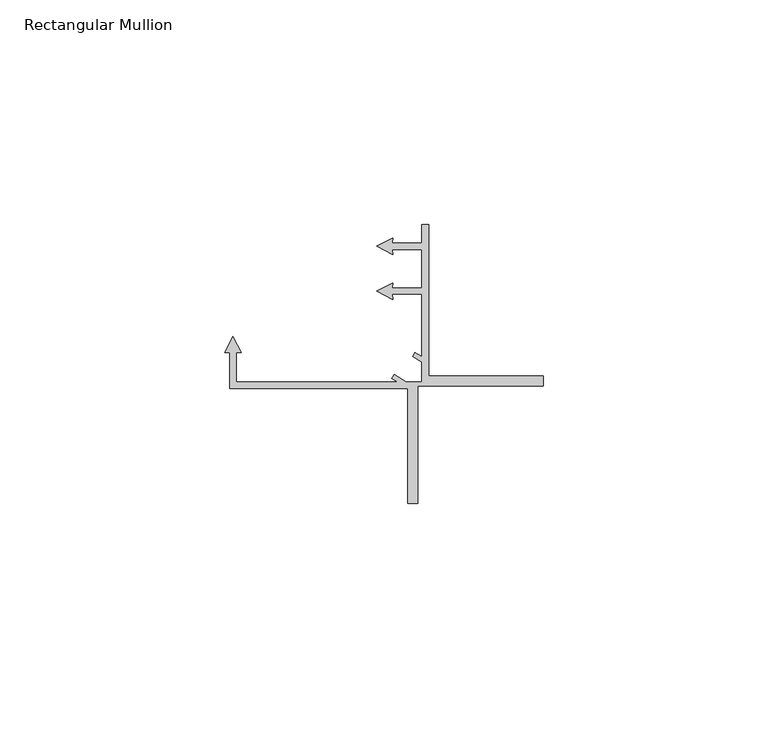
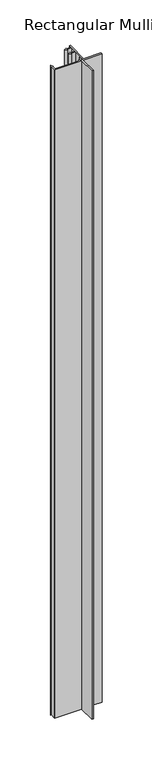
"""IFC4 building model written with IfcOpenShell, lengths in millimetres: member geometry, Rectangular Mullion : Renson_Linarte_LA-E25-03."""

from ifc_helpers import new_model, si_unit, origin, place, context, project, spatial, faceted_brep, source, transform, mapped, element, save


def rectangular_mullion_3e41cb3b(model_context):
    return source(origin(), model_context, "Body", "Brep", [
        faceted_brep([(-30.1, -36.5, 0.0), (-30.1, -62.0, 0.0), (-27.9, -62.0, 0.0), (-27.9, -35.9, 0.0), (0.0, -35.9, 0.0), (0.0, -33.7, 0.0), (-25.5, -33.7, 0.0), (-25.5, 0.0, 0.0), (-27.0, 0.0, 0.0), (-27.0, -4.101302, 0.0), (-33.600333, -4.101302, 0.0), (-33.5027181, -2.985559, 0.0), (-37.0663055, -4.8012956, 0.0), (-33.5027181, -6.6170322, 0.0), (-33.6003318, -5.5013022, 0.0), (-27.0, -5.5013022, 0.0), (-27.0, -14.1013012, 0.0), (-33.600333, -14.1013012, 0.0), (-33.5027181, -12.9855581, 0.0), (-37.0663055, -14.8012947, 0.0), (-33.5027181, -16.6170313, 0.0), (-33.6003318, -15.5013013, 0.0), (-27.0, -15.5013013, 0.0), (-27.0, -29.3830709, 0.0), (-28.5275891, -28.4652028, 0.0), (-29.0426272, -29.3223701, 0.0), (-27.0, -30.5497044, 0.0), (-27.0, -34.9987534, 0.0), (-30.4447739, -34.9987534, 0.0), (-33.1710641, -33.3606329, 0.0), (-33.6863398, -34.2181955, 0.0), (-32.3872734, -34.9987534, 0.0), (-68.3, -34.9987534, 0.0), (-68.3, -28.4038203, 0.0), (-67.1842621, -28.5014348, 0.0), (-69.0, -24.9378485, 0.0), (-70.8157379, -28.5014348, 0.0), (-69.7, -28.4038203, 0.0), (-69.7, -35.0339325, 0.0), (-69.688057, -36.5, 0.0), (-30.1, -36.5, -1000.0), (-69.688057, -36.5, -1000.0), (-69.688057, -35.0339325, -1000.0), (-69.7, -28.4038203, -1000.0), (-70.8157379, -28.5014348, -1000.0), (-69.0, -24.9378485, -1000.0), (-67.1842621, -28.5014348, -1000.0), (-68.3, -28.4038203, -1000.0), (-68.3, -34.9987534, -1000.0), (-32.3872734, -34.9987534, -1000.0), (-33.6863398, -34.2181955, -1000.0), (-33.1710641, -33.3606329, -1000.0), (-30.4447739, -34.9987534, -1000.0), (-27.0, -34.9987534, -1000.0), (-27.0, -30.5497044, -1000.0), (-29.0426272, -29.3223701, -1000.0), (-28.5275891, -28.4652028, -1000.0), (-27.0, -29.3830709, -1000.0), (-27.0, -15.5013013, -1000.0), (-33.6003318, -15.5013013, -1000.0), (-33.5027181, -16.6170313, -1000.0), (-37.0663055, -14.8012947, -1000.0), (-33.5027181, -12.9855581, -1000.0), (-33.600333, -14.1013012, -1000.0), (-27.0, -14.1013012, -1000.0), (-27.0, -5.5013022, -1000.0), (-33.6003318, -5.5013022, -1000.0), (-33.5027181, -6.6170322, -1000.0), (-37.0663055, -4.8012956, -1000.0), (-33.5027181, -2.985559, -1000.0), (-33.600333, -4.101302, -1000.0), (-27.0, -4.101302, -1000.0), (-27.0, 0.0, -1000.0), (-25.5, 0.0, -1000.0), (-25.5, -33.7, -1000.0), (0.0, -33.7, -1000.0), (0.0, -35.9, -1000.0), (-27.9, -35.9, -1000.0), (-27.9, -62.0, -1000.0), (-30.1, -62.0, -1000.0)], [[[0, 1, 2, 3, 4, 5, 6, 7, 8, 9, 10, 11, 12, 13, 14, 15, 16, 17, 18, 19, 20, 21, 22, 23, 24, 25, 26, 27, 28, 29, 30, 31, 32, 33, 34, 35, 36, 37, 38, 39]], [[40, 41, 42, 43, 44, 45, 46, 47, 48, 49, 50, 51, 52, 53, 54, 55, 56, 57, 58, 59, 60, 61, 62, 63, 64, 65, 66, 67, 68, 69, 70, 71, 72, 73, 74, 75, 76, 77, 78, 79]], [[1, 0, 40, 79]], [[2, 1, 79, 78]], [[3, 2, 78, 77]], [[4, 3, 77, 76]], [[5, 4, 76, 75]], [[6, 5, 75, 74]], [[7, 6, 74, 73]], [[8, 7, 73, 72]], [[9, 8, 72, 71]], [[10, 9, 71, 70]], [[11, 10, 70, 69]], [[12, 11, 69, 68]], [[13, 12, 68, 67]], [[14, 13, 67, 66]], [[15, 14, 66, 65]], [[16, 15, 65, 64]], [[17, 16, 64, 63]], [[18, 17, 63, 62]], [[19, 18, 62, 61]], [[20, 19, 61, 60]], [[21, 20, 60, 59]], [[22, 21, 59, 58]], [[23, 22, 58, 57]], [[24, 23, 57, 56]], [[25, 24, 56, 55]], [[26, 25, 55, 54]], [[27, 26, 54, 53]], [[28, 27, 53, 52]], [[29, 28, 52, 51]], [[30, 29, 51, 50]], [[31, 30, 50, 49]], [[32, 31, 49, 48]], [[33, 32, 48, 47]], [[34, 33, 47, 46]], [[35, 34, 46, 45]], [[36, 35, 45, 44]], [[37, 36, 44, 43]], [[38, 37, 43, 42]], [[39, 38, 42, 41]], [[0, 39, 41, 40]]]),
    ])


if __name__ == "__main__":
    model = new_model("IFC4")
    model_context = context("Model", 3, world=origin())
    ifc_project = project(units=[si_unit("LENGTHUNIT", "METRE", prefix="MILLI")], contexts=[model_context])
    site = spatial("IfcSite", under=ifc_project)
    building = spatial("IfcBuilding", under=site)
    placement = place(None, origin())
    rectangular_mullion_shape = rectangular_mullion_3e41cb3b(model_context)
    element("IfcMember", 1, ObjectType="Rectangular Mullion : Renson_Linarte_LA-E25-03", at=placement, inside=building, context=model_context, shape_type="MappedRepresentation", body=[
        mapped(rectangular_mullion_shape, transform((0.0, 0.0, 0.0), x_axis=(1.0, 0.0, 0.0), y_axis=(0.0, 1.0, 0.0), z_axis=(0.0, 0.0, 1.0))),
    ])
    save(model, "model.ifc")
